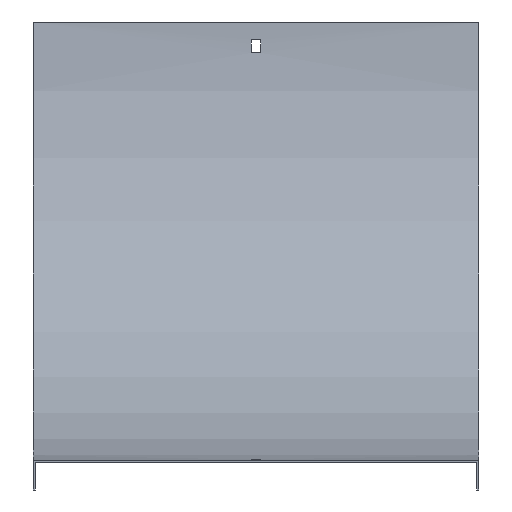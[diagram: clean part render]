
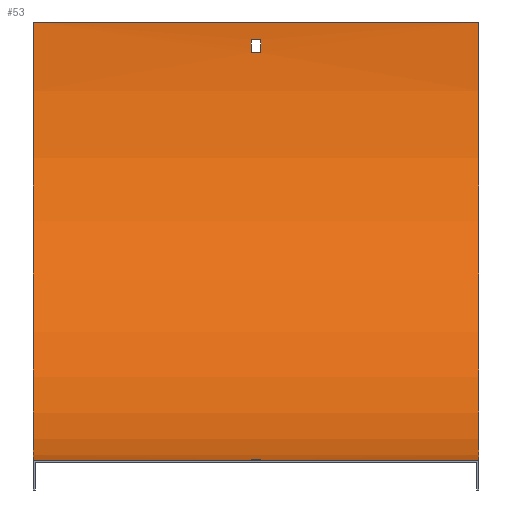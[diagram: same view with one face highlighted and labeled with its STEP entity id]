
A CAD part, top view. The second image highlights one B-rep face of the part: STEP entity #53.
In plain terms, the highlighted cylindrical face has radius 298.5 mm (diameter 597 mm), a partial arc.
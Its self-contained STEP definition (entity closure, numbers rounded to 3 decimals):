
#4 = CIRCLE ( 'NONE', #440, 298.5 ) ;
#16 = CIRCLE ( 'NONE', #300, 298.5 ) ;
#19 = FACE_BOUND ( 'NONE', #479, .T. ) ;
#21 = CARTESIAN_POINT ( 'NONE',  ( 3.25, 298.5, 0. ) ) ;
#34 = DIRECTION ( 'NONE',  ( -1., 0., 0. ) ) ;
#44 = ORIENTED_EDGE ( 'NONE', *, *, #96, .T. ) ;
#45 = CIRCLE ( 'NONE', #447, 298.5 ) ;
#53 = ADVANCED_FACE ( 'NONE', ( #399, #402, #19 ), #352, .F. ) ;
#63 = ORIENTED_EDGE ( 'NONE', *, *, #273, .T. ) ;
#64 = DIRECTION ( 'NONE',  ( 1., 0., 0. ) ) ;
#73 = VECTOR ( 'NONE', #418, 1000. ) ;
#80 = VECTOR ( 'NONE', #219, 1000. ) ;
#92 = DIRECTION ( 'NONE',  ( 0., 0., 1. ) ) ;
#93 = ORIENTED_EDGE ( 'NONE', *, *, #443, .F. ) ;
#96 = EDGE_CURVE ( 'NONE', #598, #133, #179, .T. ) ;
#106 = LINE ( 'NONE', #290, #476 ) ;
#111 = VECTOR ( 'NONE', #507, 1000. ) ;
#113 = EDGE_LOOP ( 'NONE', ( #299, #63, #44, #556 ) ) ;
#114 = ORIENTED_EDGE ( 'NONE', *, *, #124, .T. ) ;
#124 = EDGE_CURVE ( 'NONE', #149, #216, #45, .T. ) ;
#133 = VERTEX_POINT ( 'NONE', #511 ) ;
#134 = CARTESIAN_POINT ( 'NONE',  ( 151.5, 0.241, -12. ) ) ;
#137 = CARTESIAN_POINT ( 'NONE',  ( -151.5, 298.5, 0. ) ) ;
#139 = EDGE_CURVE ( 'NONE', #282, #187, #181, .T. ) ;
#141 = AXIS2_PLACEMENT_3D ( 'NONE', #21, #354, #493 ) ;
#145 = CARTESIAN_POINT ( 'NONE',  ( 151.5, 277.5, -297.76 ) ) ;
#149 = VERTEX_POINT ( 'NONE', #604 ) ;
#179 = LINE ( 'NONE', #373, #232 ) ;
#180 = EDGE_CURVE ( 'NONE', #530, #149, #231, .T. ) ;
#181 = CIRCLE ( 'NONE', #491, 298.5 ) ;
#182 = VERTEX_POINT ( 'NONE', #220 ) ;
#187 = VERTEX_POINT ( 'NONE', #572 ) ;
#193 = EDGE_LOOP ( 'NONE', ( #114, #346, #207, #567 ) ) ;
#201 = AXIS2_PLACEMENT_3D ( 'NONE', #497, #257, #449 ) ;
#207 = ORIENTED_EDGE ( 'NONE', *, *, #578, .F. ) ;
#216 = VERTEX_POINT ( 'NONE', #245 ) ;
#219 = DIRECTION ( 'NONE',  ( -1., 0., 0. ) ) ;
#220 = CARTESIAN_POINT ( 'NONE',  ( -3.25, 286.5, -298.259 ) ) ;
#225 = EDGE_CURVE ( 'NONE', #182, #490, #4, .T. ) ;
#226 = VERTEX_POINT ( 'NONE', #557 ) ;
#230 = LINE ( 'NONE', #134, #542 ) ;
#231 = LINE ( 'NONE', #456, #73 ) ;
#232 = VECTOR ( 'NONE', #370, 1000. ) ;
#238 = ORIENTED_EDGE ( 'NONE', *, *, #225, .F. ) ;
#245 = CARTESIAN_POINT ( 'NONE',  ( -151.5, 0., 0. ) ) ;
#256 = CARTESIAN_POINT ( 'NONE',  ( 151.5, 0., 0. ) ) ;
#257 = DIRECTION ( 'NONE',  ( -1., 0., 0. ) ) ;
#273 = EDGE_CURVE ( 'NONE', #385, #598, #16, .T. ) ;
#282 = VERTEX_POINT ( 'NONE', #328 ) ;
#285 = CIRCLE ( 'NONE', #141, 298.5 ) ;
#290 = CARTESIAN_POINT ( 'NONE',  ( 151.5, 286.5, -298.259 ) ) ;
#299 = ORIENTED_EDGE ( 'NONE', *, *, #586, .T. ) ;
#300 = AXIS2_PLACEMENT_3D ( 'NONE', #483, #64, #426 ) ;
#320 = ORIENTED_EDGE ( 'NONE', *, *, #139, .F. ) ;
#325 = CARTESIAN_POINT ( 'NONE',  ( -3.25, 0.74, -21. ) ) ;
#328 = CARTESIAN_POINT ( 'NONE',  ( 3.25, 277.5, -297.76 ) ) ;
#335 = EDGE_CURVE ( 'NONE', #490, #282, #471, .T. ) ;
#338 = DIRECTION ( 'NONE',  ( -1., 0., 0. ) ) ;
#346 = ORIENTED_EDGE ( 'NONE', *, *, #548, .F. ) ;
#352 = CYLINDRICAL_SURFACE ( 'NONE', #201, 298.5 ) ;
#354 = DIRECTION ( 'NONE',  ( -1., 0., 0. ) ) ;
#361 = CARTESIAN_POINT ( 'NONE',  ( -3.25, 277.5, -297.76 ) ) ;
#370 = DIRECTION ( 'NONE',  ( 1., 0., 0. ) ) ;
#373 = CARTESIAN_POINT ( 'NONE',  ( 151.5, 0.74, -21. ) ) ;
#385 = VERTEX_POINT ( 'NONE', #388 ) ;
#388 = CARTESIAN_POINT ( 'NONE',  ( -3.25, 0.241, -12. ) ) ;
#399 = FACE_OUTER_BOUND ( 'NONE', #193, .T. ) ;
#401 = CARTESIAN_POINT ( 'NONE',  ( 151.5, 298.5, 0. ) ) ;
#402 = FACE_BOUND ( 'NONE', #113, .T. ) ;
#403 = DIRECTION ( 'NONE',  ( 0., 0., 1. ) ) ;
#408 = DIRECTION ( 'NONE',  ( -1., 0., 0. ) ) ;
#409 = DIRECTION ( 'NONE',  ( 1., 0., 0. ) ) ;
#418 = DIRECTION ( 'NONE',  ( -1., 0., 0. ) ) ;
#425 = AXIS2_PLACEMENT_3D ( 'NONE', #401, #408, #403 ) ;
#426 = DIRECTION ( 'NONE',  ( 0., 0., 1. ) ) ;
#436 = DIRECTION ( 'NONE',  ( -1., 0., 0. ) ) ;
#440 = AXIS2_PLACEMENT_3D ( 'NONE', #519, #436, #470 ) ;
#442 = ORIENTED_EDGE ( 'NONE', *, *, #335, .F. ) ;
#443 = EDGE_CURVE ( 'NONE', #187, #182, #106, .T. ) ;
#447 = AXIS2_PLACEMENT_3D ( 'NONE', #137, #34, #550 ) ;
#449 = DIRECTION ( 'NONE',  ( 0., 0., 1. ) ) ;
#455 = LINE ( 'NONE', #256, #80 ) ;
#456 = CARTESIAN_POINT ( 'NONE',  ( 151.5, 298.5, -298.5 ) ) ;
#470 = DIRECTION ( 'NONE',  ( 0., 1., 0. ) ) ;
#471 = LINE ( 'NONE', #145, #111 ) ;
#476 = VECTOR ( 'NONE', #338, 1000. ) ;
#479 = EDGE_LOOP ( 'NONE', ( #238, #93, #320, #442 ) ) ;
#482 = VERTEX_POINT ( 'NONE', #540 ) ;
#483 = CARTESIAN_POINT ( 'NONE',  ( -3.25, 298.5, 0. ) ) ;
#486 = CIRCLE ( 'NONE', #425, 298.5 ) ;
#490 = VERTEX_POINT ( 'NONE', #361 ) ;
#491 = AXIS2_PLACEMENT_3D ( 'NONE', #547, #409, #92 ) ;
#493 = DIRECTION ( 'NONE',  ( 0., 0., -1. ) ) ;
#497 = CARTESIAN_POINT ( 'NONE',  ( 151.5, 298.5, 0. ) ) ;
#503 = EDGE_CURVE ( 'NONE', #133, #482, #285, .T. ) ;
#507 = DIRECTION ( 'NONE',  ( 1., 0., 0. ) ) ;
#511 = CARTESIAN_POINT ( 'NONE',  ( 3.25, 0.74, -21. ) ) ;
#519 = CARTESIAN_POINT ( 'NONE',  ( -3.25, 298.5, 0. ) ) ;
#530 = VERTEX_POINT ( 'NONE', #537 ) ;
#537 = CARTESIAN_POINT ( 'NONE',  ( 151.5, 298.5, -298.5 ) ) ;
#540 = CARTESIAN_POINT ( 'NONE',  ( 3.25, 0.241, -12. ) ) ;
#542 = VECTOR ( 'NONE', #592, 1000. ) ;
#547 = CARTESIAN_POINT ( 'NONE',  ( 3.25, 298.5, 0. ) ) ;
#548 = EDGE_CURVE ( 'NONE', #226, #216, #455, .T. ) ;
#550 = DIRECTION ( 'NONE',  ( 0., 0., 1. ) ) ;
#556 = ORIENTED_EDGE ( 'NONE', *, *, #503, .T. ) ;
#557 = CARTESIAN_POINT ( 'NONE',  ( 151.5, 0., 0. ) ) ;
#567 = ORIENTED_EDGE ( 'NONE', *, *, #180, .T. ) ;
#572 = CARTESIAN_POINT ( 'NONE',  ( 3.25, 286.5, -298.259 ) ) ;
#578 = EDGE_CURVE ( 'NONE', #530, #226, #486, .T. ) ;
#586 = EDGE_CURVE ( 'NONE', #482, #385, #230, .T. ) ;
#592 = DIRECTION ( 'NONE',  ( -1., 0., 0. ) ) ;
#598 = VERTEX_POINT ( 'NONE', #325 ) ;
#604 = CARTESIAN_POINT ( 'NONE',  ( -151.5, 298.5, -298.5 ) ) ;
